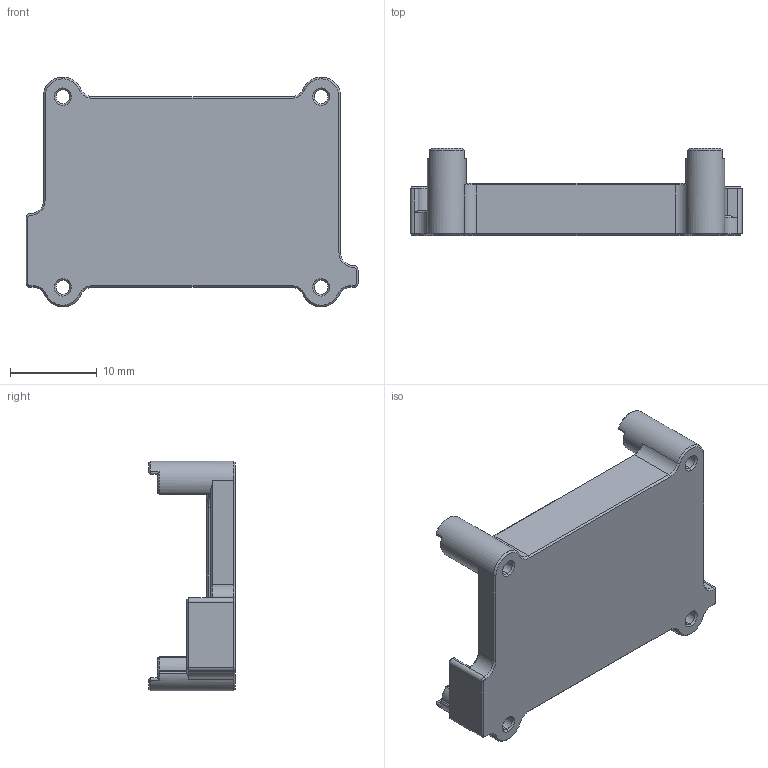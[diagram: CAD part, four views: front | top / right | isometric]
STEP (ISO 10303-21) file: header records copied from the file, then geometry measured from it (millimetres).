
FILE_DESCRIPTION (( 'STEP AP203' ), '1' );
FILE_NAME ('i056A-M1(THERMALPAD_1_5MM).STEP', '2023-01-20T08:57:25', ( '' ), ( '' ), 'SwSTEP 2.0', 'SolidWorks 2022', '' );
FILE_SCHEMA (( 'CONFIG_CONTROL_DESIGN' ));
Length unit declared in the file: millimetre
Products named in the file (1): i056A-M1(THERMALPAD_1_5MM)
Bounding box: 38.3 x 10 x 26.5 mm (x, y, z)
Volume: 2937.9 mm3; surface area: 2839 mm2
Topology: 1 solids, 1 shells, 243 faces, 604 edges, 334 vertices
Faces by surface type: cone 102, plane 73, cylinder 68
Entity records: 7048 total; most frequent: CARTESIAN_POINT 1300, DIRECTION 1261, ORIENTED_EDGE 1158, EDGE_CURVE 579, AXIS2_PLACEMENT_3D 473, VERTEX_POINT 334, LINE 315, VECTOR 315
